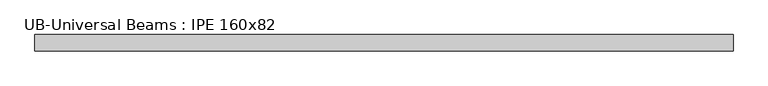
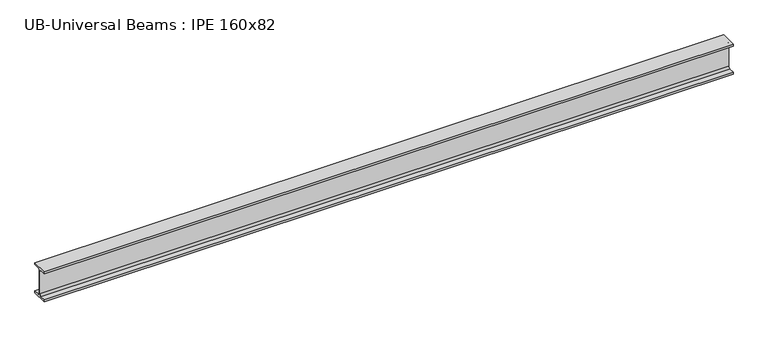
"""IFC4 building model written with IfcOpenShell, lengths in millimetres: beam geometry, UB-Universal Beams : IPE 160x82."""

from ifc_helpers import new_model, si_unit, point, frame, frame_2d, origin, place, context, project, spatial, polyline, circle_curve, trimmed, segment, composite_curve, outline, extrude, source, transform, mapped, element, save


def ub_universal_beams_ipe_160x82_5295c27c(model_context):
    return source(origin(), model_context, "Body", "SweptSolid", [
        extrude(outline(composite_curve([segment(polyline([(-41.0, -69.8), (-11.9, -69.8)]), True, "CONTINUOUS"), segment(trimmed(circle_curve(frame_2d((-11.9, -60.9)), 8.9), [point((-11.9, -69.8))], [point((-3.0, -60.9))], True, "CARTESIAN"), True, "CONTINUOUS"), segment(polyline([(-3.0, -60.9), (-3.0, 60.9)]), True, "CONTINUOUS"), segment(trimmed(circle_curve(frame_2d((-11.9, 60.9)), 8.9), [point((-3.0, 60.9))], [point((-11.9, 69.8))], True, "CARTESIAN"), True, "CONTINUOUS"), segment(polyline([(-11.9, 69.8), (-41.0, 69.8), (-41.0, 80.0), (41.0, 80.0), (41.0, 69.8), (11.9, 69.8)]), True, "CONTINUOUS"), segment(trimmed(circle_curve(frame_2d((11.9, 60.9)), 8.9), [point((11.9, 69.8))], [point((3.0, 60.9))], True, "CARTESIAN"), True, "CONTINUOUS"), segment(polyline([(3.0, 60.9), (3.0, -60.9)]), True, "CONTINUOUS"), segment(trimmed(circle_curve(frame_2d((11.9, -60.9)), 8.9), [point((3.0, -60.9))], [point((11.9, -69.8))], True, "CARTESIAN"), True, "CONTINUOUS"), segment(polyline([(11.9, -69.8), (41.0, -69.8), (41.0, -80.0), (-41.0, -80.0), (-41.0, -69.8)]), True, "CONTINUOUS")], self_intersect=False)), frame((-1355.2, 0.0, 0.0), z_axis=(1.0, 0.0, 0.0), x_axis=(0.0, 1.0, 0.0)), (0.0, 0.0, 1.0), 3473.1),
    ])


if __name__ == "__main__":
    model = new_model("IFC4")
    model_context = context("Model", 3, world=origin())
    ifc_project = project(units=[si_unit("LENGTHUNIT", "METRE", prefix="MILLI")], contexts=[model_context])
    site = spatial("IfcSite", under=ifc_project)
    building = spatial("IfcBuilding", under=site)
    placement = place(None, origin())
    ub_universal_beams_ipe_160x82_shape = ub_universal_beams_ipe_160x82_5295c27c(model_context)
    element("IfcBeam", 1, ObjectType="UB-Universal Beams : IPE 160x82", at=placement, inside=building, context=model_context, shape_type="MappedRepresentation", body=[
        mapped(ub_universal_beams_ipe_160x82_shape, transform((0.0, 0.0, 0.0), x_axis=(1.0, 0.0, 0.0), y_axis=(0.0, 1.0, 0.0), z_axis=(0.0, 0.0, 1.0))),
    ])
    save(model, "model.ifc")
